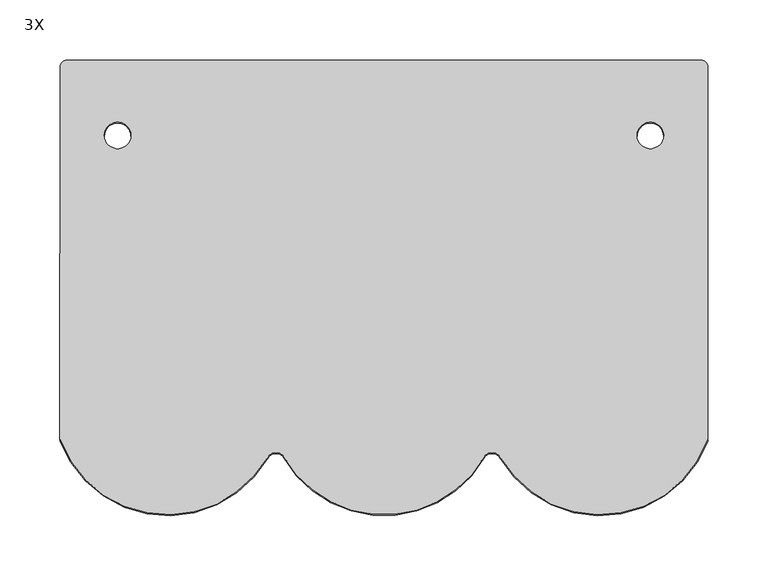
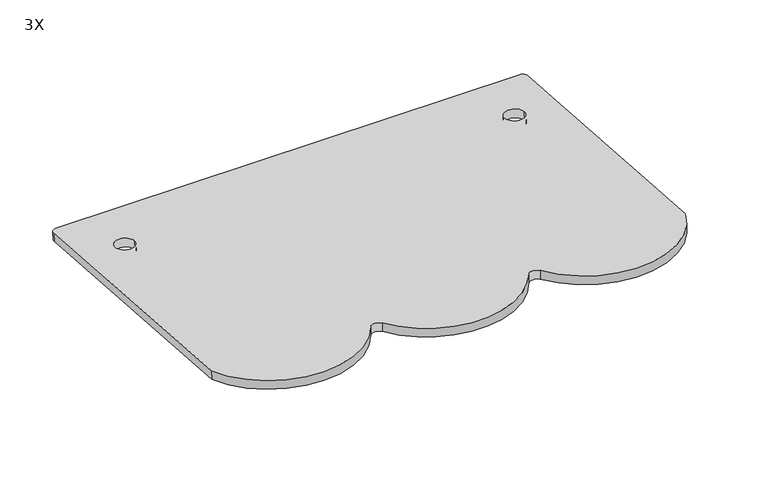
"""IFC4 building model written with IfcOpenShell, lengths in millimetres: proxy geometry, ML PhotonRoof Beaver Brick Premium : 3X."""

from ifc_helpers import new_model, si_unit, point, frame, frame_2d, origin, place, context, project, spatial, polyline, circle_curve, trimmed, segment, composite_curve, outline, extrude, source, transform, mapped, element, save


def proxy_3x_0312541a(model_context):
    return source(origin(), model_context, "Body", "SweptSolid", [
        extrude(outline(composite_curve([segment(polyline([(-5.9999999, -6.0), (-5.9999999, 522.0)]), True, "CONTINUOUS"), segment(trimmed(circle_curve(frame_2d((0.0, 522.0)), 6.0), [point((-5.9999999, 522.0))], [point((0.0, 528.0))], False, "CARTESIAN"), True, "CONTINUOUS"), segment(polyline([(0.0, 528.0), (311.4065862, 528.0)]), True, "CONTINUOUS"), segment(trimmed(circle_curve(frame_2d((278.0, 438.0)), 96.0), [point((311.4065862, 528.0))], [point((325.4030407, 354.5197525))], False, "CARTESIAN"), True, "CONTINUOUS"), segment(trimmed(circle_curve(frame_2d((330.0390765, 348.0)), 8.0), [point((325.4030407, 354.5197525))], [point((325.4030407, 341.4802475))], True, "CARTESIAN"), True, "CONTINUOUS"), segment(trimmed(circle_curve(frame_2d((278.0, 258.0)), 96.0), [point((325.4030407, 341.4802475))], [point((325.4030407, 174.5197525))], False, "CARTESIAN"), True, "CONTINUOUS"), segment(trimmed(circle_curve(frame_2d((330.0390765, 168.0)), 8.0), [point((325.4030407, 174.5197525))], [point((325.4030407, 161.4802475))], True, "CARTESIAN"), True, "CONTINUOUS"), segment(trimmed(circle_curve(frame_2d((278.0, 78.0)), 96.0), [point((325.4030407, 161.4802475))], [point((311.4065862, -12.0))], False, "CARTESIAN"), True, "CONTINUOUS"), segment(polyline([(311.4065862, -12.0), (0.0, -12.0)]), True, "CONTINUOUS"), segment(trimmed(circle_curve(frame_2d((0.0, -6.0)), 6.0), [point((0.0, -12.0))], [point((-5.9999999, -6.0))], False, "CARTESIAN"), True, "CONTINUOUS")], self_intersect=False), holes=[composite_curve([segment(trimmed(circle_curve(frame_2d((57.0000001, 480.0)), 11.0), [point((57.0000001, 491.0))], [point((57.0000001, 469.0))], True, "CARTESIAN"), True, "CONTINUOUS"), segment(trimmed(circle_curve(frame_2d((57.0000001, 480.0)), 11.0), [point((57.0000001, 469.0))], [point((57.0000001, 491.0))], True, "CARTESIAN"), True, "CONTINUOUS")], self_intersect=False), composite_curve([segment(trimmed(circle_curve(frame_2d((57.0000001, 36.0)), 11.0), [point((57.0000001, 25.0))], [point((57.0000001, 47.0))], True, "CARTESIAN"), True, "CONTINUOUS"), segment(trimmed(circle_curve(frame_2d((57.0000001, 36.0)), 11.0), [point((57.0000001, 47.0))], [point((57.0000001, 25.0))], True, "CARTESIAN"), True, "CONTINUOUS")], self_intersect=False)]), frame((-78.0, 55.8377399, -3.9626783), z_axis=(0.0, 0.0707897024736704, 0.997491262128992), x_axis=(0.0, -0.997491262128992, 0.0707897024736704)), (0.0, 0.0, 1.0), 10.0),
        extrude(outline(polyline([(65.625, 0.0), (65.625, -23.75), (-13.759513, -23.75), (-13.759513, 0.0), (65.625, 0.0)])), frame((154.0672565, 44.8719219, -17.0261079), z_axis=(0.0, 0.0707897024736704, 0.997491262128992), x_axis=(1.0, 0.0, 0.0)), (0.0, 0.0, 1.0), 13.8069239),
    ])


if __name__ == "__main__":
    model = new_model("IFC4")
    model_context = context("Model", 3, world=origin())
    ifc_project = project(units=[si_unit("LENGTHUNIT", "METRE", prefix="MILLI")], contexts=[model_context])
    site = spatial("IfcSite", under=ifc_project)
    building = spatial("IfcBuilding", under=site)
    placement = place(None, origin())
    proxy_3x_shape = proxy_3x_0312541a(model_context)
    element("IfcBuildingElementProxy", 1, Name="ML PhotonRoof Beaver Brick Premium : 3X", ObjectType="ML PhotonRoof Beaver Brick Premium : 3X", at=placement, inside=building, context=model_context, shape_type="MappedRepresentation", body=[
        mapped(proxy_3x_shape, transform((0.0, 0.0, 0.0), x_axis=(1.0, 0.0, 0.0), y_axis=(0.0, 1.0, 0.0), z_axis=(0.0, 0.0, 1.0))),
    ])
    save(model, "model.ifc")
